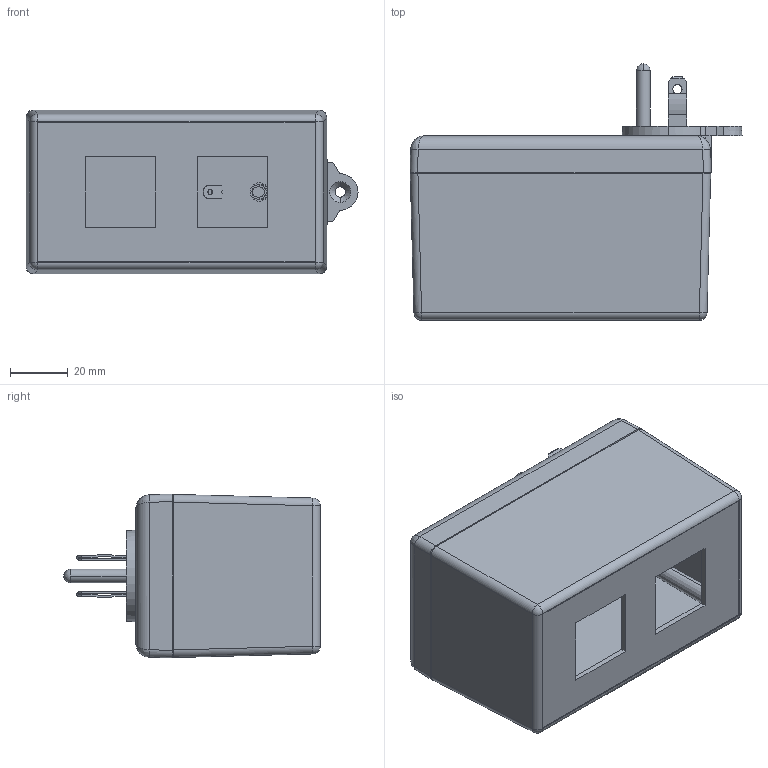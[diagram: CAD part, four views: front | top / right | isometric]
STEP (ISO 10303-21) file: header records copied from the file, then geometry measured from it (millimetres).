
FILE_DESCRIPTION (( 'STEP AP214' ), '1' );
FILE_NAME ('PM2425R23XWT.STEP', '2010-07-15T14:18:41', ( '' ), ( '' ), 'SwSTEP 2.0', 'SolidWorks 2010', '' );
FILE_SCHEMA (( 'AUTOMOTIVE_DESIGN' ));
Length unit declared in the file: inch
Products named in the file (10): TS-2420B AND PM2420_PM2420R2; B2405 ASS''Y_B24053XWT; MPB2405_MPB24053WT; GND-PIN; BLADES; WELD DISC-PS-BK; GND-TAB; SCREWS-HL1-BR; B2405-PCB; PM2425R23XWT
Assembly tree (13 placements, depth 3):
  PM2425R23XWT
    B2405-PCB
    TS-2420B AND PM2420_PM2420R2
    SCREWS-HL1-BR  x4
    B2405 ASS''Y_B24053XWT
      GND-TAB
      WELD DISC-PS-BK
      MPB2405_MPB24053WT
      BLADES  x2
      GND-PIN
Bounding box: 115.34 x 89.03 x 56.95 mm (x, y, z)
Volume: 85833.7 mm3; surface area: 81434.8 mm2
Topology: 12 solids, 12 shells, 965 faces, 2679 edges, 1745 vertices
Faces by surface type: cylinder 520, plane 309, cone 82, bspline 28, sphere 14, torus 12
Entity records: 21016 total; most frequent: CARTESIAN_POINT 6615, ORIENTED_EDGE 3068, DIRECTION 2810, EDGE_CURVE 1534, AXIS2_PLACEMENT_3D 1001, VERTEX_POINT 995, LINE 808, VECTOR 808
